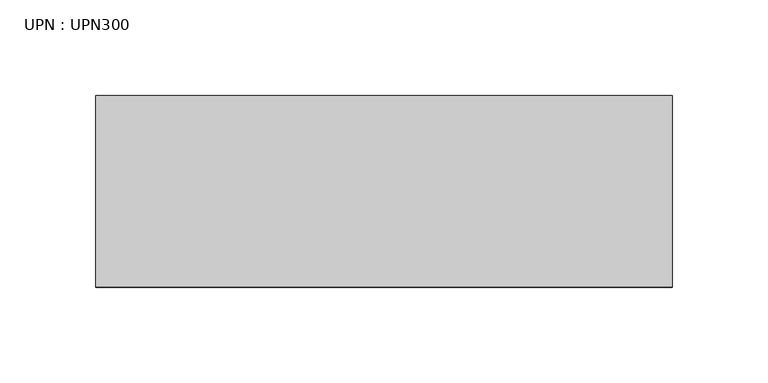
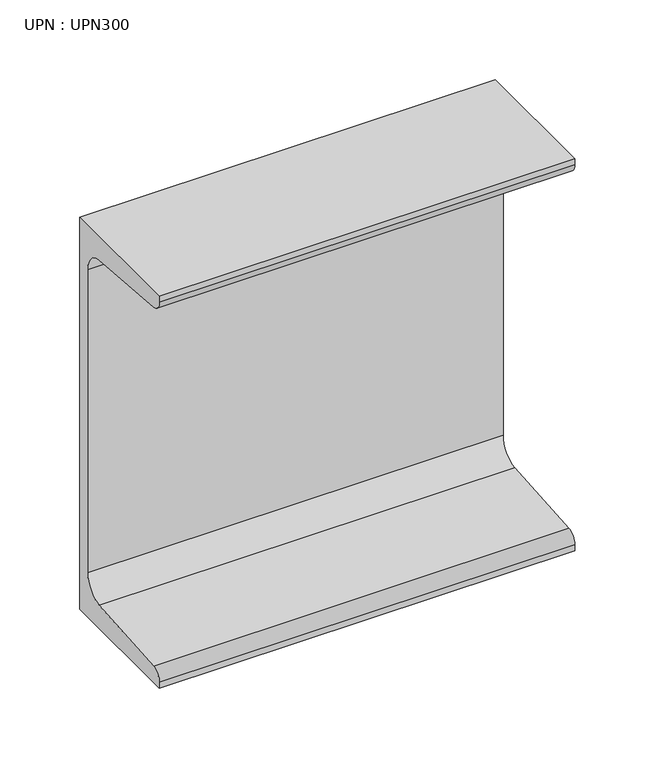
"""IFC4 building model written with IfcOpenShell, lengths in millimetres: beam geometry, UPN : UPN300."""

from ifc_helpers import new_model, si_unit, point, frame, frame_2d, origin, place, context, project, spatial, polyline, circle_curve, trimmed, segment, composite_curve, outline, extrude, source, transform, mapped, element, save


def upn_upn300_1502331d(model_context):
    return source(origin(), model_context, "Body", "SweptSolid", [
        extrude(outline(composite_curve([segment(polyline([(27.0, 150.0), (27.0, -150.0), (-73.0, -150.0), (-73.0, -145.3826224)]), True, "CONTINUOUS"), segment(trimmed(circle_curve(frame_2d((-65.0, -145.3826224)), 8.0), [point((-73.0, -145.3826224))], [point((-65.637416, -137.4080566))], False, "CARTESIAN"), True, "CONTINUOUS"), segment(polyline([(-65.637416, -137.4080566), (2.274832, -131.9797543)]), True, "CONTINUOUS"), segment(trimmed(circle_curve(frame_2d((1.0, -116.0306225)), 16.0), [point((2.274832, -131.9797543))], [point((17.0, -116.0306225))], True, "CARTESIAN"), True, "CONTINUOUS"), segment(polyline([(17.0, -116.0306225), (17.0, 116.0306225)]), True, "CONTINUOUS"), segment(trimmed(circle_curve(frame_2d((1.0, 116.0306225)), 16.0), [point((17.0, 116.0306225))], [point((2.274832, 131.9797543))], True, "CARTESIAN"), True, "CONTINUOUS"), segment(polyline([(2.274832, 131.9797543), (-65.637416, 137.4080566)]), True, "CONTINUOUS"), segment(trimmed(circle_curve(frame_2d((-65.0, 145.3826224)), 8.0), [point((-65.637416, 137.4080566))], [point((-73.0, 145.3826224))], False, "CARTESIAN"), True, "CONTINUOUS"), segment(polyline([(-73.0, 145.3826224), (-73.0, 150.0), (27.0, 150.0)]), True, "CONTINUOUS")], self_intersect=False)), frame((-135.85, 0.0, 0.0), z_axis=(1.0, 0.0, 0.0), x_axis=(0.0, 1.0, 0.0)), (0.0, 0.0, 1.0), 300.8),
    ])


if __name__ == "__main__":
    model = new_model("IFC4")
    model_context = context("Model", 3, world=origin())
    ifc_project = project(units=[si_unit("LENGTHUNIT", "METRE", prefix="MILLI")], contexts=[model_context])
    site = spatial("IfcSite", under=ifc_project)
    building = spatial("IfcBuilding", under=site)
    placement = place(None, origin())
    upn_upn300_shape = upn_upn300_1502331d(model_context)
    element("IfcBeam", 1, ObjectType="UPN : UPN300", at=placement, inside=building, context=model_context, shape_type="MappedRepresentation", body=[
        mapped(upn_upn300_shape, transform((0.0, 0.0, 0.0), x_axis=(1.0, 0.0, 0.0), y_axis=(0.0, 1.0, 0.0), z_axis=(0.0, 0.0, 1.0))),
    ])
    save(model, "model.ifc")
